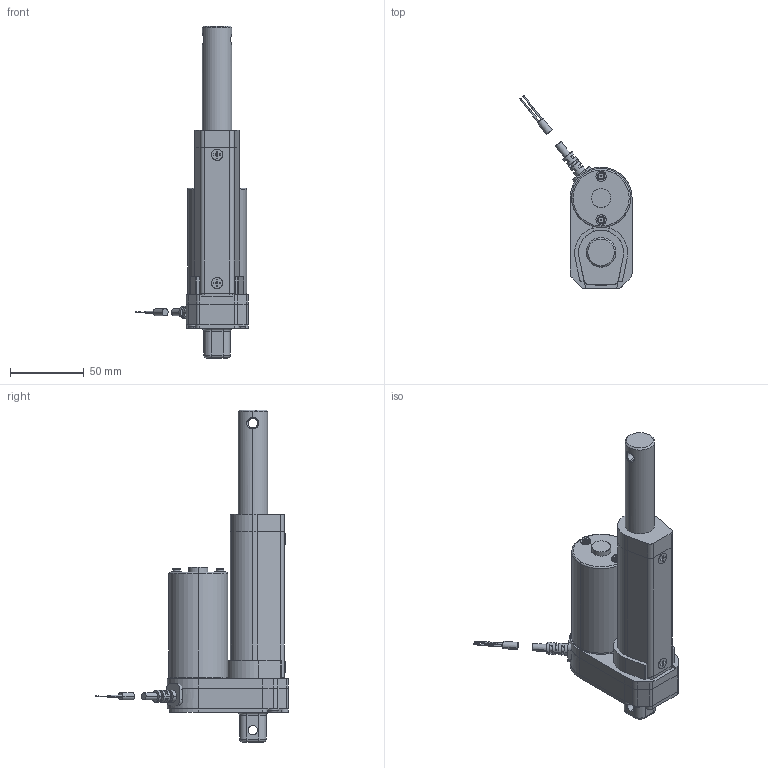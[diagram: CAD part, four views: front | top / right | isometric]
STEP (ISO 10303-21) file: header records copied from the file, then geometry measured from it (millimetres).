
FILE_DESCRIPTION (( 'STEP AP203' ), '1' );
FILE_NAME ('la350e.step', '2020-08-06T14:22:30', ( '' ), ( '' ), 'SwSTEP 2.0', 'SolidWorks 2017', '' );
FILE_SCHEMA (( 'CONFIG_CONTROL_DESIGN' ));
Length unit declared in the file: millimetre
Products named in the file (1): la350e
Bounding box: 76.07 x 130.5 x 225 mm (x, y, z)
Volume: 343554.3 mm3; surface area: 74715.4 mm2
Topology: 17 solids, 17 shells, 427 faces, 1050 edges, 686 vertices
Faces by surface type: plane 232, cylinder 159, torus 22, cone 10, bspline 4
Entity records: 15600 total; most frequent: CARTESIAN_POINT 5107, DIRECTION 2266, ORIENTED_EDGE 2100, EDGE_CURVE 1050, AXIS2_PLACEMENT_3D 812, VERTEX_POINT 686, VECTOR 642, LINE 642
